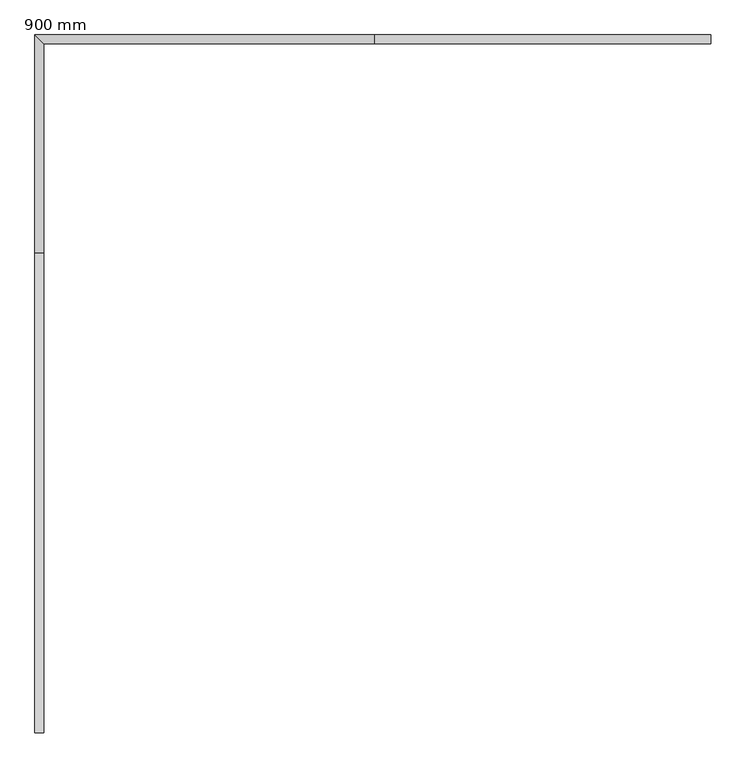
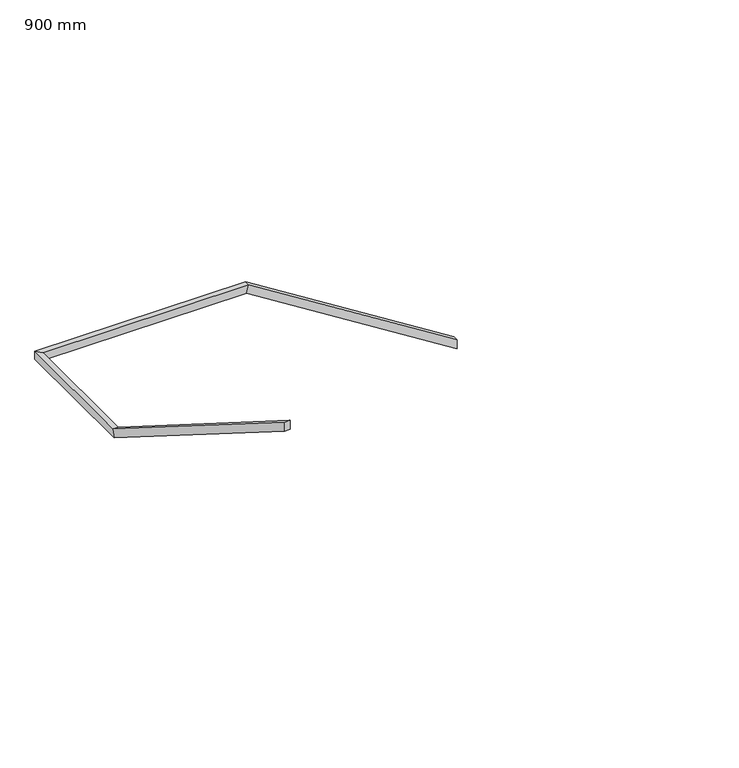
"""IFC4 building model written with IfcOpenShell, lengths in millimetres: railing geometry, 900 mm."""

import ifcopenshell
import ifcopenshell.guid

model = None  # the IFC model being written
_history = None  # IfcOwnerHistory: only IFC2X3 demands one
_inside = {}  # id of a spatial element -> (the spatial element, [elements in it])
_under = {}  # id of a project, library or spatial element -> (it, [spatial elements below it])
_declared = {}  # id of a project -> (the project, [libraries it declares])
_typed = {}  # id of a type object -> (the type object, [elements of that type])
_made_of = {}  # id of a material, layer set ... -> (it, [elements and type objects made of it])


def new_model(schema):
    """Start an empty IFC model of exactly this schema.

    Asked for "IFC4X3", IfcOpenShell would pick the latest addendum, in which some entities
    have other attributes; the version numbers below select the first issue.
    IFC2X3 requires an IfcOwnerHistory on every rooted entity: one is made here for all.
    """
    global model, _history
    if schema == "IFC4X3":
        model = ifcopenshell.file(schema_version=(4, 3, 0, 0))
    else:
        model = ifcopenshell.file(schema=schema)
    _inside.clear()
    _under.clear()
    _declared.clear()
    _typed.clear()
    _made_of.clear()
    _history = None
    if model.schema == "IFC2X3":
        org = make("IfcOrganization", Name="unknown")
        user = make(
            "IfcPersonAndOrganization",
            ThePerson=make("IfcPerson", FamilyName="unknown"),
            TheOrganization=org,
        )
        app = make(
            "IfcApplication",
            ApplicationDeveloper=org,
            Version="unknown",
            ApplicationFullName="unknown",
            ApplicationIdentifier="unknown",
        )
        _history = make(
            "IfcOwnerHistory",
            OwningUser=user,
            OwningApplication=app,
            ChangeAction="ADDED",
            CreationDate=0,
        )
    return model


def make(cls, **values):
    """One entity of the class cls with the attributes given. An attribute that is None is left unset."""
    return model.create_entity(
        cls, **{name: value for name, value in values.items() if value is not None}
    )


def rooted(cls, **values):
    """An entity with a GlobalId (a new one), such as an element, a storey or a relation."""
    return make(cls, GlobalId=ifcopenshell.guid.new(), OwnerHistory=_history, **values)


def si_unit(unit_type, name, prefix=None):
    """IfcSIUnit, for example si_unit("LENGTHUNIT", "METRE", prefix="MILLI")."""
    return make("IfcSIUnit", UnitType=unit_type, Prefix=prefix, Name=name)


def assignment(units):
    """IfcUnitAssignment: the units of a project."""
    return None if units is None else make("IfcUnitAssignment", Units=units)


def point(xyz):
    """IfcCartesianPoint."""
    return None if xyz is None else make("IfcCartesianPoint", Coordinates=xyz)


def direction(xyz):
    """IfcDirection."""
    return None if xyz is None else make("IfcDirection", DirectionRatios=xyz)


def frame(location, z_axis=None, x_axis=None):
    """IfcAxis2Placement3D, a coordinate frame: its origin and axes. An axis left out is left unset."""
    return make(
        "IfcAxis2Placement3D",
        Location=point(location),
        Axis=direction(z_axis),
        RefDirection=direction(x_axis),
    )


def origin():
    """The frame at (0, 0, 0) with its axes left unset."""
    return frame((0.0, 0.0, 0.0))


def place(relative_to, where):
    """IfcLocalPlacement: puts the frame where relative to a parent placement (None: the world)."""
    return make(
        "IfcLocalPlacement", PlacementRelTo=relative_to, RelativePlacement=where
    )


def context(
    kind, dimensions, precision=None, world=None, true_north=None, identifier=None
):
    """IfcGeometricRepresentationContext, for example the 3D "Model" context."""
    return make(
        "IfcGeometricRepresentationContext",
        ContextIdentifier=identifier,
        ContextType=kind,
        CoordinateSpaceDimension=dimensions,
        Precision=precision,
        WorldCoordinateSystem=world,
        TrueNorth=true_north,
    )


def project(units=None, contexts=None):
    """IfcProject with its units and contexts."""
    return rooted(
        "IfcProject",
        Name="project",
        RepresentationContexts=contexts,
        UnitsInContext=assignment(units),
    )


def spatial(cls, under=None, at=None, **own):
    """A site, building, storey or space (cls), placed at a placement, below another one or the project."""
    s = rooted(cls, ObjectPlacement=at, **own)
    if under is not None:
        _under.setdefault(under.id(), (under, []))[1].append(s)
    return s


def faces_of(points, faces, orient=None, outer=None):
    """IfcFace entities. A face is a list of loops; a loop is a list of indices into points, from 0.

    orient and outer hold one flag for each loop. By default every Orientation is true, the
    first loop of a face is its IfcFaceOuterBound and the others are IfcFaceBound.
    """
    made = []
    for i, loops in enumerate(faces):
        bounds = []
        for j, loop in enumerate(loops):
            is_outer = j == 0 if outer is None else outer[i][j]
            bounds.append(
                make(
                    "IfcFaceOuterBound" if is_outer else "IfcFaceBound",
                    Bound=make("IfcPolyLoop", Polygon=[points[k] for k in loop]),
                    Orientation=True if orient is None else orient[i][j],
                )
            )
        made.append(make("IfcFace", Bounds=bounds))
    return made


def faceted_brep(points, faces, orient=None, outer=None, voids=None):
    """IfcFacetedBrep: a solid bounded by flat faces; with voids (closed shells), ...WithVoids."""
    shared = [point(p) for p in points]
    hull = make("IfcClosedShell", CfsFaces=faces_of(shared, faces, orient, outer))
    if voids is None:
        return make("IfcFacetedBrep", Outer=hull)
    return make(
        "IfcFacetedBrepWithVoids",
        Outer=hull,
        Voids=[
            make(cls, CfsFaces=faces_of(shared, fs, o, b)) for cls, fs, o, b in voids
        ],
    )


def shape(context_of_items, identifier, shape_type, items):
    """IfcShapeRepresentation: the items that make up one representation, for example the "Body"."""
    return make(
        "IfcShapeRepresentation",
        ContextOfItems=context_of_items,
        RepresentationIdentifier=identifier,
        RepresentationType=shape_type,
        Items=items,
    )


def source(mapping_origin, context_of_items, identifier, shape_type, items):
    """IfcRepresentationMap: a shape defined once, which mapped items show again and again."""
    return make(
        "IfcRepresentationMap",
        MappingOrigin=mapping_origin,
        MappedRepresentation=shape(context_of_items, identifier, shape_type, items),
    )


def transform(
    local_origin,
    x_axis=None,
    y_axis=None,
    z_axis=None,
    scale=None,
    scale2=None,
    scale3=None,
    uniform=True,
):
    """IfcCartesianTransformationOperator3D, or its non-uniform kind. x_axis, y_axis, z_axis: its Axis1, 2, 3."""
    if uniform:
        return make(
            "IfcCartesianTransformationOperator3D",
            Axis1=direction(x_axis),
            Axis2=direction(y_axis),
            LocalOrigin=point(local_origin),
            Scale=scale,
            Axis3=direction(z_axis),
        )
    return make(
        "IfcCartesianTransformationOperator3DnonUniform",
        Axis1=direction(x_axis),
        Axis2=direction(y_axis),
        LocalOrigin=point(local_origin),
        Scale=scale,
        Axis3=direction(z_axis),
        Scale2=scale2,
        Scale3=scale3,
    )


def mapped(mapping_source, mapping_target):
    """IfcMappedItem: shows the shape of a source again, moved by a transform."""
    return make(
        "IfcMappedItem", MappingSource=mapping_source, MappingTarget=mapping_target
    )


def made_of(thing, what):
    """Note that an element or type object is made of a material, layer set ...; save() writes the relation."""
    if what is not None:
        _made_of.setdefault(what.id(), (what, []))[1].append(thing)
    return thing


def element(
    cls,
    number,
    at=None,
    inside=None,
    cuts=None,
    type_object=None,
    material=None,
    context=None,
    identifier="Body",
    shape_type=None,
    held_by="IfcProductDefinitionShape",
    body=None,
    shapes=None,
    **own,
):
    """One element of the class cls, such as IfcWall. Its Tag is "e" and its number.

    at: its placement. inside: the storey or other place that contains it. cuts: it is an
    opening in that element (IfcRelVoidsElement). A single representation is given by context,
    identifier, shape_type and body (its items); several are given by shapes. held_by: the class
    of the entity that holds the representations. save() writes the other relations.
    """
    e = rooted(cls, Tag="e%d" % number, ObjectPlacement=at, **own)
    if body is not None:
        shapes = [shape(context, identifier, shape_type, body)]
    if shapes is not None:
        e.Representation = make(held_by, Representations=shapes)
    if inside is not None:
        _inside.setdefault(inside.id(), (inside, []))[1].append(e)
    if cuts is not None:
        rooted(
            "IfcRelVoidsElement", RelatingBuildingElement=cuts, RelatedOpeningElement=e
        )
    if type_object is not None:
        _typed.setdefault(type_object.id(), (type_object, []))[1].append(e)
    return made_of(e, material)


def aggregate(whole, parts):
    """IfcRelAggregates: a whole, such as a stair, and the parts it consists of."""
    return rooted("IfcRelAggregates", RelatingObject=whole, RelatedObjects=parts)


def save(model, path):
    """Write the relations noted so far, then the file.

    IfcRelAggregates (storeys below a building ...), IfcRelContainedInSpatialStructure (elements
    in a storey), IfcRelDefinesByType, IfcRelAssociatesMaterial and IfcRelDeclares: one each for
    every whole, place, type object, material and project.
    """
    for whole, parts in _under.values():
        aggregate(whole, parts)
    for where, things in _inside.values():
        rooted(
            "IfcRelContainedInSpatialStructure",
            RelatedElements=things,
            RelatingStructure=where,
        )
    for kind, things in _typed.values():
        rooted("IfcRelDefinesByType", RelatedObjects=things, RelatingType=kind)
    for what, things in _made_of.values():
        rooted("IfcRelAssociatesMaterial", RelatedObjects=things, RelatingMaterial=what)
    for by, libraries in _declared.values():
        rooted("IfcRelDeclares", RelatingContext=by, RelatedDefinitions=libraries)
    model.write(path)


def railing_900_mm_58856e27(model_context):
    return source(origin(), model_context, "Body", "Brep", [
        faceted_brep([(-4520.034414, 9562.2835606, -1923.5294118), (-4520.034414, 9562.2835606, -2013.6008323), (-4520.034414, 9613.0835606, -2013.6008323), (-4520.034414, 9613.0835606, -1923.5294118), (-6480.034414, 9562.2835606, -688.2352941), (-6502.0437346, 9562.2835606, -764.4352941), (-6502.0437346, 9613.0835606, -764.4352941), (-6480.034414, 9613.0835606, -688.2352941), (-8411.012268, 9562.2835606, -688.2352941), (-8411.012268, 9562.2835606, -764.4352941), (-8461.812268, 9613.0835606, -764.4352941), (-8461.812268, 9613.0835606, -688.2352941), (-8411.012268, 8342.6835606, -688.2352941), (-8411.012268, 8320.67424, -764.4352941), (-8461.812268, 8320.67424, -764.4352941), (-8461.812268, 8342.6835606, -688.2352941), (-8411.012268, 5542.6835606, 1076.4705882), (-8461.812268, 5542.6835606, 1076.4705882), (-8461.812268, 5542.6835606, 986.3991677), (-8411.012268, 5542.6835606, 986.3991677)], [[[0, 1, 2, 3]], [[1, 0, 4, 5]], [[2, 1, 5, 6]], [[3, 2, 6, 7]], [[0, 3, 7, 4]], [[5, 4, 8, 9]], [[6, 5, 9, 10]], [[7, 6, 10, 11]], [[4, 7, 11, 8]], [[9, 8, 12, 13]], [[10, 9, 13, 14]], [[11, 10, 14, 15]], [[8, 11, 15, 12]], [[16, 17, 18, 19]], [[13, 12, 16, 19]], [[14, 13, 19, 18]], [[15, 14, 18, 17]], [[12, 15, 17, 16]]]),
    ])


if __name__ == "__main__":
    model = new_model("IFC4")
    model_context = context("Model", 3, world=origin())
    ifc_project = project(units=[si_unit("LENGTHUNIT", "METRE", prefix="MILLI")], contexts=[model_context])
    site = spatial("IfcSite", under=ifc_project)
    building = spatial("IfcBuilding", under=site)
    placement = place(None, origin())
    railing_900_mm_shape = railing_900_mm_58856e27(model_context)
    element("IfcRailing", 1, ObjectType="900 mm", at=placement, inside=building, context=model_context, shape_type="MappedRepresentation", body=[
        mapped(railing_900_mm_shape, transform((0.0, 0.0, 0.0), x_axis=(1.0, 0.0, 0.0), y_axis=(0.0, 1.0, 0.0), z_axis=(0.0, 0.0, 1.0))),
    ])
    save(model, "model.ifc")
